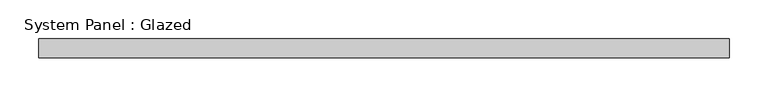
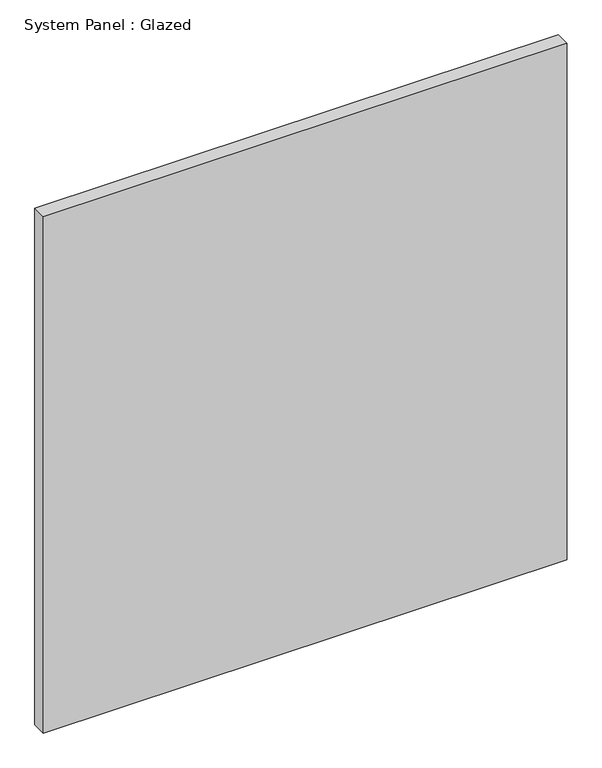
"""IFC4 building model written with IfcOpenShell, lengths in millimetres: plate geometry, System Panel : Glazed."""

from ifc_helpers import new_model, si_unit, origin, origin_with_axes, place, context, project, spatial, polyline, outline, extrude, source, transform, mapped, element, save


def system_panel_glazed_8429cb43(model_context):
    return source(origin(), model_context, "Body", "SweptSolid", [
        extrude(outline(polyline([(447.0, -72.5), (-447.0, -72.5), (-447.0, -47.5), (447.0, -47.5), (447.0, -72.5)])), origin_with_axes(), (0.0, 0.0, 1.0), 931.25),
    ])


if __name__ == "__main__":
    model = new_model("IFC4")
    model_context = context("Model", 3, world=origin())
    ifc_project = project(units=[si_unit("LENGTHUNIT", "METRE", prefix="MILLI")], contexts=[model_context])
    site = spatial("IfcSite", under=ifc_project)
    building = spatial("IfcBuilding", under=site)
    placement = place(None, origin())
    system_panel_glazed_shape = system_panel_glazed_8429cb43(model_context)
    element("IfcPlate", 1, ObjectType="System Panel : Glazed", at=placement, inside=building, context=model_context, shape_type="MappedRepresentation", body=[
        mapped(system_panel_glazed_shape, transform((0.0, 0.0, 0.0), x_axis=(1.0, 0.0, 0.0), y_axis=(0.0, 1.0, 0.0), z_axis=(0.0, 0.0, 1.0))),
    ])
    save(model, "model.ifc")
